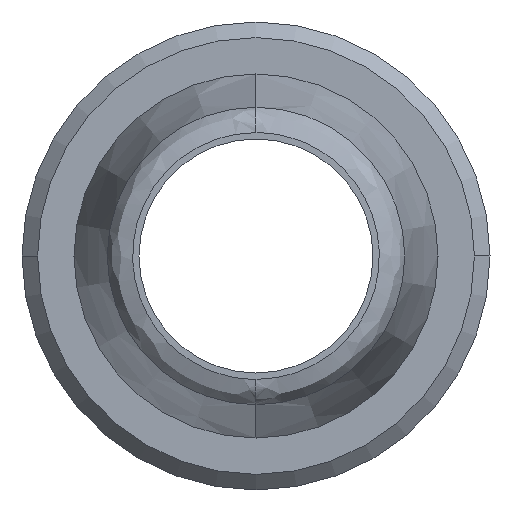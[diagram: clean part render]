
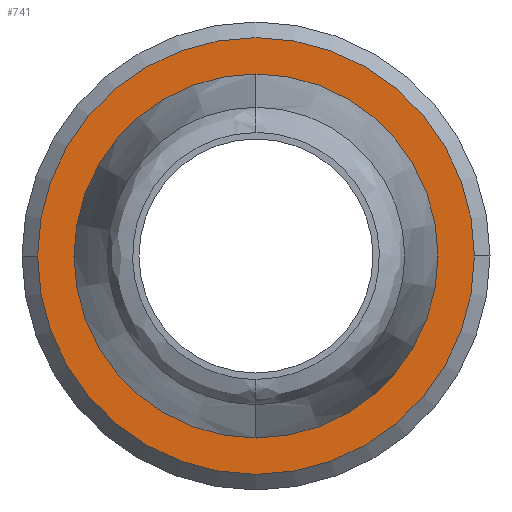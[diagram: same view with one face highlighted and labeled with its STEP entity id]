
A CAD part, front view. The second image highlights one B-rep face of the part: STEP entity #741.
In plain terms, the highlighted planar face has unit normal (0, -1, 0).
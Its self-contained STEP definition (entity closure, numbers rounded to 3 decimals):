
#99 = DIRECTION ( 'NONE',  ( -1., 0., 0. ) ) ;
#114 = DIRECTION ( 'NONE',  ( 0., -1., 0. ) ) ;
#116 = CARTESIAN_POINT ( 'NONE',  ( 0., 7., 0. ) ) ;
#135 = DIRECTION ( 'NONE',  ( -1., 0., 0. ) ) ;
#136 = DIRECTION ( 'NONE',  ( 0., -1., 0. ) ) ;
#137 = CARTESIAN_POINT ( 'NONE',  ( 0., 7., 0. ) ) ;
#165 = DIRECTION ( 'NONE',  ( 1., 0., 0. ) ) ;
#166 = DIRECTION ( 'NONE',  ( 0., 1., 0. ) ) ;
#168 = CARTESIAN_POINT ( 'NONE',  ( 0., 7., 0. ) ) ;
#416 = CARTESIAN_POINT ( 'NONE',  ( -3.5, 7., 0. ) ) ;
#455 = CARTESIAN_POINT ( 'NONE',  ( 4.2, 7., 0. ) ) ;
#459 = CARTESIAN_POINT ( 'NONE',  ( -4.2, 7., 0. ) ) ;
#477 = CARTESIAN_POINT ( 'NONE',  ( 3.5, 7., 0. ) ) ;
#516 = CARTESIAN_POINT ( 'NONE',  ( -4.25, 7., 4.25 ) ) ;
#532 = DIRECTION ( 'NONE',  ( 0., 1., 0. ) ) ;
#533 = CARTESIAN_POINT ( 'NONE',  ( 0., 7., 0. ) ) ;
#558 = DIRECTION ( 'NONE',  ( 1., 0., 0. ) ) ;
#562 = DIRECTION ( 'NONE',  ( 0., 0., -1. ) ) ;
#564 = PLANE ( 'NONE',  #881 ) ;
#731 = DIRECTION ( 'NONE',  ( 0., -1., 0. ) ) ;
#741 = ADVANCED_FACE ( 'NONE', ( #1394, #1445 ), #564, .T. ) ;
#785 = EDGE_CURVE ( 'NONE', #1024, #1500, #1117, .T. ) ;
#799 = EDGE_CURVE ( 'NONE', #1224, #1355, #1358, .T. ) ;
#828 = EDGE_CURVE ( 'NONE', #1500, #1024, #1294, .T. ) ;
#836 = EDGE_CURVE ( 'NONE', #1355, #1224, #1352, .T. ) ;
#881 = AXIS2_PLACEMENT_3D ( 'NONE', #516, #731, #562 ) ;
#939 = AXIS2_PLACEMENT_3D ( 'NONE', #533, #532, #558 ) ;
#968 = AXIS2_PLACEMENT_3D ( 'NONE', #137, #136, #135 ) ;
#972 = AXIS2_PLACEMENT_3D ( 'NONE', #168, #166, #165 ) ;
#994 = AXIS2_PLACEMENT_3D ( 'NONE', #116, #114, #99 ) ;
#1024 = VERTEX_POINT ( 'NONE', #477 ) ;
#1034 = ORIENTED_EDGE ( 'NONE', *, *, #836, .T. ) ;
#1075 = ORIENTED_EDGE ( 'NONE', *, *, #799, .T. ) ;
#1117 = CIRCLE ( 'NONE', #939, 3.5 ) ;
#1224 = VERTEX_POINT ( 'NONE', #459 ) ;
#1280 = ORIENTED_EDGE ( 'NONE', *, *, #785, .T. ) ;
#1294 = CIRCLE ( 'NONE', #972, 3.5 ) ;
#1300 = ORIENTED_EDGE ( 'NONE', *, *, #828, .T. ) ;
#1322 = EDGE_LOOP ( 'NONE', ( #1075, #1034 ) ) ;
#1352 = CIRCLE ( 'NONE', #968, 4.2 ) ;
#1355 = VERTEX_POINT ( 'NONE', #455 ) ;
#1358 = CIRCLE ( 'NONE', #994, 4.2 ) ;
#1375 = EDGE_LOOP ( 'NONE', ( #1280, #1300 ) ) ;
#1394 = FACE_BOUND ( 'NONE', #1375, .T. ) ;
#1445 = FACE_OUTER_BOUND ( 'NONE', #1322, .T. ) ;
#1500 = VERTEX_POINT ( 'NONE', #416 ) ;
